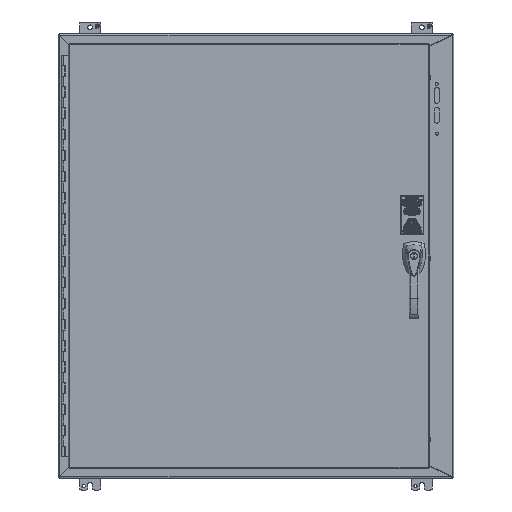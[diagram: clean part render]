
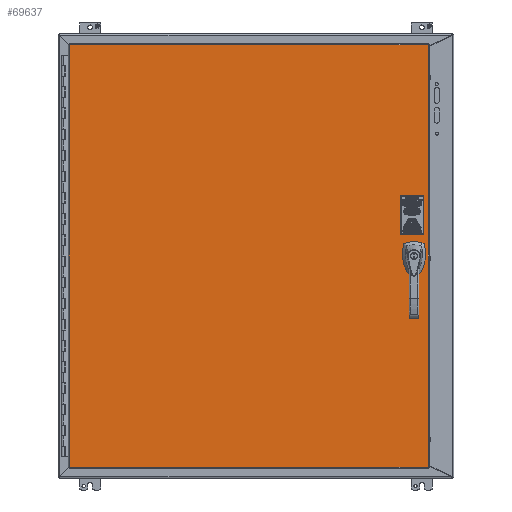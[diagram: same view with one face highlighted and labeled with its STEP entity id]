
A CAD part, front view. The second image highlights one B-rep face of the part: STEP entity #69637.
In plain terms, the highlighted planar face has unit normal (0, -1, 0).
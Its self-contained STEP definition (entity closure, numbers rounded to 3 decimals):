
#6222=LINE('',#93281,#11042);
#6223=LINE('',#93284,#11043);
#6224=LINE('',#93286,#11044);
#6225=LINE('',#93288,#11045);
#6226=LINE('',#93289,#11046);
#6227=LINE('',#93294,#11047);
#6228=LINE('',#93298,#11048);
#6229=LINE('',#93302,#11049);
#11042=VECTOR('',#79410,1000.);
#11043=VECTOR('',#79411,1000.);
#11044=VECTOR('',#79412,1000.);
#11045=VECTOR('',#79413,1000.);
#11046=VECTOR('',#79414,1000.);
#11047=VECTOR('',#79417,1000.);
#11048=VECTOR('',#79420,1000.);
#11049=VECTOR('',#79423,1000.);
#17333=ORIENTED_EDGE('',*,*,#38232,.T.);
#17334=ORIENTED_EDGE('',*,*,#38233,.F.);
#17335=ORIENTED_EDGE('',*,*,#38234,.T.);
#17336=ORIENTED_EDGE('',*,*,#38235,.F.);
#17337=ORIENTED_EDGE('',*,*,#38236,.F.);
#17338=ORIENTED_EDGE('',*,*,#38237,.T.);
#17339=ORIENTED_EDGE('',*,*,#38238,.T.);
#17340=ORIENTED_EDGE('',*,*,#38239,.T.);
#17341=ORIENTED_EDGE('',*,*,#38240,.T.);
#17342=ORIENTED_EDGE('',*,*,#38241,.T.);
#17343=ORIENTED_EDGE('',*,*,#38242,.T.);
#17344=ORIENTED_EDGE('',*,*,#38243,.T.);
#17345=ORIENTED_EDGE('',*,*,#38244,.T.);
#38232=EDGE_CURVE('',#48771,#48771,#55722,.T.);
#38233=EDGE_CURVE('',#48772,#48773,#6222,.T.);
#38234=EDGE_CURVE('',#48772,#48774,#6223,.T.);
#38235=EDGE_CURVE('',#48775,#48774,#6224,.T.);
#38236=EDGE_CURVE('',#48773,#48775,#6225,.T.);
#38237=EDGE_CURVE('',#48776,#48777,#6226,.T.);
#38238=EDGE_CURVE('',#48777,#48778,#55723,.T.);
#38239=EDGE_CURVE('',#48778,#48779,#6227,.T.);
#38240=EDGE_CURVE('',#48779,#48780,#55724,.T.);
#38241=EDGE_CURVE('',#48780,#48781,#6228,.T.);
#38242=EDGE_CURVE('',#48781,#48782,#55725,.T.);
#38243=EDGE_CURVE('',#48782,#48783,#6229,.T.);
#38244=EDGE_CURVE('',#48783,#48776,#55726,.T.);
#48771=VERTEX_POINT('',#93280);
#48772=VERTEX_POINT('',#93282);
#48773=VERTEX_POINT('',#93283);
#48774=VERTEX_POINT('',#93285);
#48775=VERTEX_POINT('',#93287);
#48776=VERTEX_POINT('',#93290);
#48777=VERTEX_POINT('',#93291);
#48778=VERTEX_POINT('',#93293);
#48779=VERTEX_POINT('',#93295);
#48780=VERTEX_POINT('',#93297);
#48781=VERTEX_POINT('',#93299);
#48782=VERTEX_POINT('',#93301);
#48783=VERTEX_POINT('',#93303);
#55722=CIRCLE('',#74189,4.242);
#55723=CIRCLE('',#74190,11.24);
#55724=CIRCLE('',#74191,11.24);
#55725=CIRCLE('',#74192,11.24);
#55726=CIRCLE('',#74193,11.24);
#56587=EDGE_LOOP('',(#17333));
#56588=EDGE_LOOP('',(#17334,#17335,#17336,#17337));
#56589=EDGE_LOOP('',(#17338,#17339,#17340,#17341,#17342,#17343,#17344,#17345));
#61525=FACE_BOUND('',#56587,.T.);
#61526=FACE_BOUND('',#56588,.T.);
#61527=FACE_BOUND('',#56589,.T.);
#66379=PLANE('',#74188);
#69637=ADVANCED_FACE('',(#61525,#61526,#61527),#66379,.T.);
#74188=AXIS2_PLACEMENT_3D('',#93278,#79406,#79407);
#74189=AXIS2_PLACEMENT_3D('',#93279,#79408,#79409);
#74190=AXIS2_PLACEMENT_3D('',#93292,#79415,#79416);
#74191=AXIS2_PLACEMENT_3D('',#93296,#79418,#79419);
#74192=AXIS2_PLACEMENT_3D('',#93300,#79421,#79422);
#74193=AXIS2_PLACEMENT_3D('',#93304,#79424,#79425);
#79406=DIRECTION('',(0.,-1.,0.));
#79407=DIRECTION('',(0.,0.,-1.));
#79408=DIRECTION('',(0.,1.,0.));
#79409=DIRECTION('',(1.,0.,0.));
#79410=DIRECTION('',(0.,0.,1.));
#79411=DIRECTION('',(1.,0.,0.));
#79412=DIRECTION('',(0.,0.,-1.));
#79413=DIRECTION('',(1.,0.,0.));
#79414=DIRECTION('',(0.,0.,1.));
#79415=DIRECTION('',(0.,1.,0.));
#79416=DIRECTION('',(1.,0.,0.));
#79417=DIRECTION('',(1.,0.,0.));
#79418=DIRECTION('',(0.,1.,0.));
#79419=DIRECTION('',(1.,0.,0.));
#79420=DIRECTION('',(0.,0.,-1.));
#79421=DIRECTION('',(0.,1.,0.));
#79422=DIRECTION('',(1.,0.,0.));
#79423=DIRECTION('',(-1.,0.,0.));
#79424=DIRECTION('',(0.,1.,0.));
#79425=DIRECTION('',(1.,0.,0.));
#93278=CARTESIAN_POINT('',(-433.388,0.,-510.388));
#93279=CARTESIAN_POINT('',(396.862,0.,-33.985));
#93280=CARTESIAN_POINT('',(401.104,0.,-33.985));
#93281=CARTESIAN_POINT('',(-430.644,0.,507.644));
#93282=CARTESIAN_POINT('',(-430.644,0.,-507.644));
#93283=CARTESIAN_POINT('',(-430.644,0.,507.644));
#93284=CARTESIAN_POINT('',(430.644,0.,-507.644));
#93285=CARTESIAN_POINT('',(430.644,0.,-507.644));
#93286=CARTESIAN_POINT('',(430.644,0.,507.644));
#93287=CARTESIAN_POINT('',(430.644,0.,507.644));
#93288=CARTESIAN_POINT('',(-433.388,0.,507.644));
#93289=CARTESIAN_POINT('',(386.817,0.,-5.041));
#93290=CARTESIAN_POINT('',(386.817,0.,-5.041));
#93291=CARTESIAN_POINT('',(386.817,0.,5.041));
#93292=CARTESIAN_POINT('',(396.862,0.,0.));
#93293=CARTESIAN_POINT('',(391.821,0.,10.046));
#93294=CARTESIAN_POINT('',(391.821,0.,10.046));
#93295=CARTESIAN_POINT('',(401.903,0.,10.046));
#93296=CARTESIAN_POINT('',(396.862,0.,0.));
#93297=CARTESIAN_POINT('',(406.908,0.,5.041));
#93298=CARTESIAN_POINT('',(406.908,0.,5.041));
#93299=CARTESIAN_POINT('',(406.908,0.,-5.041));
#93300=CARTESIAN_POINT('',(396.862,0.,0.));
#93301=CARTESIAN_POINT('',(401.903,0.,-10.046));
#93302=CARTESIAN_POINT('',(401.903,0.,-10.046));
#93303=CARTESIAN_POINT('',(391.821,0.,-10.046));
#93304=CARTESIAN_POINT('',(396.862,0.,0.));
